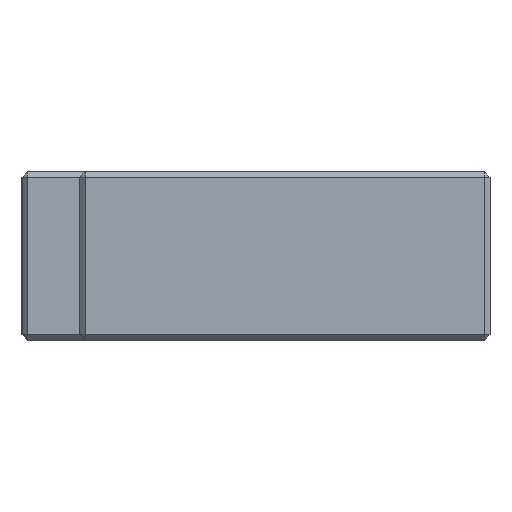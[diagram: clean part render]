
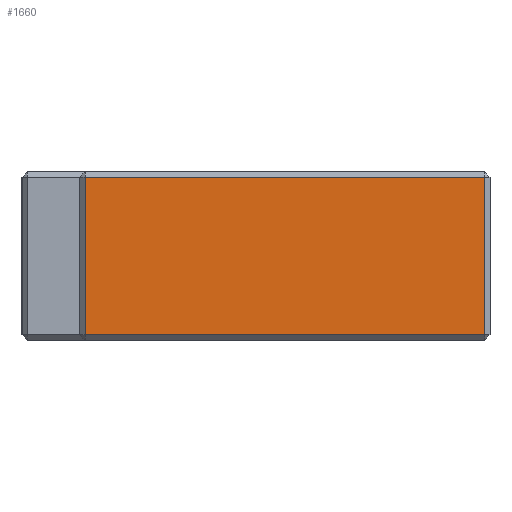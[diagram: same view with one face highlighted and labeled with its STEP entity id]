
A CAD part, left-side view. The second image highlights one B-rep face of the part: STEP entity #1660.
In plain terms, the highlighted planar face has unit normal (-1, 0, 0).
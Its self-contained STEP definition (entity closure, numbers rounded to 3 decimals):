
#750 = FACE_OUTER_BOUND ( 'NONE', #894, .T. ) ;
#798 = VECTOR ( 'NONE', #4653, 1000. ) ;
#894 = EDGE_LOOP ( 'NONE', ( #3877, #4842, #1939, #2928 ) ) ;
#934 = VECTOR ( 'NONE', #3627, 1000. ) ;
#980 = CARTESIAN_POINT ( 'NONE',  ( -64., 78., -15. ) ) ;
#1049 = VECTOR ( 'NONE', #1135, 1000. ) ;
#1135 = DIRECTION ( 'NONE',  ( 0., -1., 0. ) ) ;
#1288 = VECTOR ( 'NONE', #4841, 1000. ) ;
#1421 = CARTESIAN_POINT ( 'NONE',  ( -64., 1., -15. ) ) ;
#1660 = ADVANCED_FACE ( 'NONE', ( #750 ), #4857, .F. ) ;
#1810 = EDGE_CURVE ( 'NONE', #3574, #4943, #4244, .T. ) ;
#1909 = EDGE_CURVE ( 'NONE', #4002, #2861, #2945, .T. ) ;
#1939 = ORIENTED_EDGE ( 'NONE', *, *, #3214, .T. ) ;
#2062 = LINE ( 'NONE', #980, #1049 ) ;
#2486 = EDGE_CURVE ( 'NONE', #4943, #4002, #2062, .T. ) ;
#2861 = VERTEX_POINT ( 'NONE', #3533 ) ;
#2928 = ORIENTED_EDGE ( 'NONE', *, *, #1810, .T. ) ;
#2945 = LINE ( 'NONE', #3631, #934 ) ;
#3064 = LINE ( 'NONE', #4672, #798 ) ;
#3096 = CARTESIAN_POINT ( 'NONE',  ( -64., 77., -15. ) ) ;
#3205 = AXIS2_PLACEMENT_3D ( 'NONE', #4703, #4602, #4693 ) ;
#3214 = EDGE_CURVE ( 'NONE', #2861, #3574, #3064, .T. ) ;
#3533 = CARTESIAN_POINT ( 'NONE',  ( -64., 1., 15. ) ) ;
#3574 = VERTEX_POINT ( 'NONE', #4030 ) ;
#3627 = DIRECTION ( 'NONE',  ( 0., 0., 1. ) ) ;
#3631 = CARTESIAN_POINT ( 'NONE',  ( -64., 1., 16. ) ) ;
#3811 = CARTESIAN_POINT ( 'NONE',  ( -64., 77., 16. ) ) ;
#3877 = ORIENTED_EDGE ( 'NONE', *, *, #2486, .T. ) ;
#4002 = VERTEX_POINT ( 'NONE', #1421 ) ;
#4030 = CARTESIAN_POINT ( 'NONE',  ( -64., 77., 15. ) ) ;
#4244 = LINE ( 'NONE', #3811, #1288 ) ;
#4602 = DIRECTION ( 'NONE',  ( 1., 0., 0. ) ) ;
#4653 = DIRECTION ( 'NONE',  ( 0., 1., 0. ) ) ;
#4672 = CARTESIAN_POINT ( 'NONE',  ( -64., 78., 15. ) ) ;
#4693 = DIRECTION ( 'NONE',  ( 0., 1., 0. ) ) ;
#4703 = CARTESIAN_POINT ( 'NONE',  ( -64., 78., 16. ) ) ;
#4841 = DIRECTION ( 'NONE',  ( 0., 0., -1. ) ) ;
#4842 = ORIENTED_EDGE ( 'NONE', *, *, #1909, .T. ) ;
#4857 = PLANE ( 'NONE',  #3205 ) ;
#4943 = VERTEX_POINT ( 'NONE', #3096 ) ;
